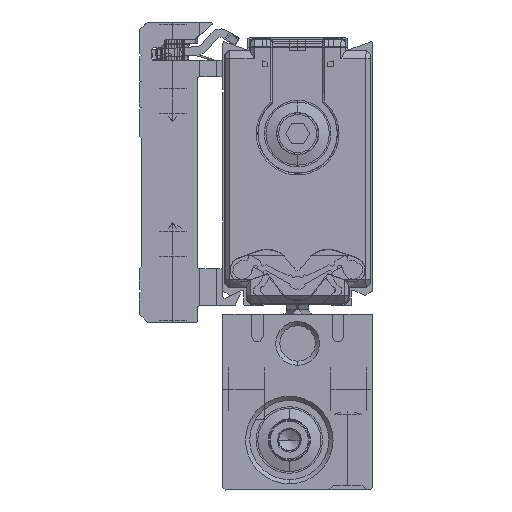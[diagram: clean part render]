
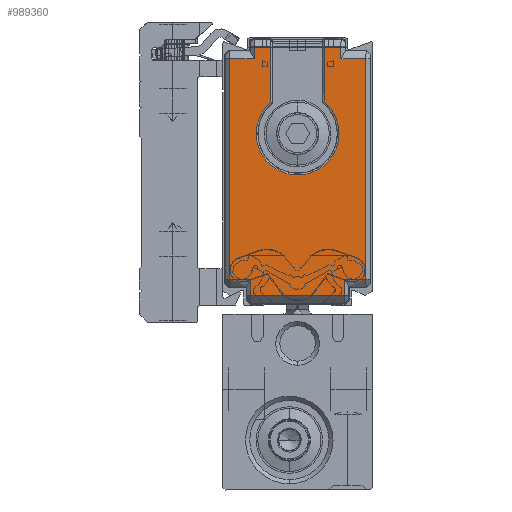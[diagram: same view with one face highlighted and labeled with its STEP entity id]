
A CAD part, left-side view. The second image highlights one B-rep face of the part: STEP entity #989360.
In plain terms, the highlighted planar face has unit normal (-1, 0, 0) as drawn and (0, 0, -1) by its records, which use the part's own axes.
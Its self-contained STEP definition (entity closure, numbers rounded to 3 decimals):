
#948520=CARTESIAN_POINT('',(24.688,30.224,-494.5));
#948530=VERTEX_POINT('',#948520);
#949580=CARTESIAN_POINT('',(31.365,35.75,-494.5));
#949590=DIRECTION('',(0.,-1.,0.));
#949600=VECTOR('',#949590,1.);
#949610=LINE('',#949580,#949600);
#949620=CARTESIAN_POINT('',(31.365,23.776,-494.5));
#949630=VERTEX_POINT('',#949620);
#949640=CARTESIAN_POINT('',(31.365,21.802,-494.5));
#949650=VERTEX_POINT('',#949640);
#949660=EDGE_CURVE('',#949630,#949650,#949610,.T.);
#956670=CARTESIAN_POINT('',(3.435,32.648,-494.5));
#956680=VERTEX_POINT('',#956670);
#956880=CARTESIAN_POINT('',(1.435,32.648,-494.5));
#956890=VERTEX_POINT('',#956880);
#956920=CARTESIAN_POINT('',(3.935,32.648,-494.5));
#956930=CARTESIAN_POINT('',(3.435,32.648,-494.5));
#956940=CARTESIAN_POINT('',(2.935,32.648,-494.5));
#956950=CARTESIAN_POINT('',(2.102,32.648,-494.5));
#956960=CARTESIAN_POINT('',(1.768,32.648,-494.5));
#956970=CARTESIAN_POINT('',(1.435,32.648,-494.5));
#956980=B_SPLINE_CURVE_WITH_KNOTS('',3,(#956920,#956930,#956940,#956950,
#956960,#956970),.UNSPECIFIED.,.F.,.F.,(4,2,4),(37.084,
38.584,39.584),.UNSPECIFIED.);
#956990=EDGE_CURVE('',#956680,#956890,#956980,.T.);
#958330=CARTESIAN_POINT('',(24.688,23.776,-494.5));
#958340=VERTEX_POINT('',#958330);
#960130=CARTESIAN_POINT('',(29.865,35.75,-494.5));
#960140=DIRECTION('',(0.,1.,0.));
#960150=VECTOR('',#960140,1.);
#960160=LINE('',#960130,#960150);
#960170=CARTESIAN_POINT('',(29.865,32.198,-494.5));
#960180=VERTEX_POINT('',#960170);
#960190=CARTESIAN_POINT('',(29.865,35.198,-494.5));
#960200=VERTEX_POINT('',#960190);
#960210=EDGE_CURVE('',#960180,#960200,#960160,.T.);
#962060=CARTESIAN_POINT('',(3.435,35.75,-494.5));
#962070=DIRECTION('',(0.,1.,0.));
#962080=VECTOR('',#962070,1.);
#962090=LINE('',#962060,#962080);
#962100=CARTESIAN_POINT('',(3.435,35.198,-494.5));
#962110=VERTEX_POINT('',#962100);
#962120=EDGE_CURVE('',#956680,#962110,#962090,.T.);
#962550=CARTESIAN_POINT('',(31.365,32.198,-494.5));
#962560=VERTEX_POINT('',#962550);
#962590=CARTESIAN_POINT('',(31.365,30.224,-494.5));
#962600=VERTEX_POINT('',#962590);
#962610=EDGE_CURVE('',#962560,#962600,#949610,.T.);
#963320=CARTESIAN_POINT('',(3.435,18.802,-494.5));
#963330=VERTEX_POINT('',#963320);
#963640=CARTESIAN_POINT('',(3.435,35.75,-494.5));
#963650=DIRECTION('',(0.,-1.,0.));
#963660=VECTOR('',#963650,1.);
#963670=LINE('',#963640,#963660);
#963680=CARTESIAN_POINT('',(3.435,21.352,-494.5));
#963690=VERTEX_POINT('',#963680);
#963700=EDGE_CURVE('',#963690,#963330,#963670,.T.);
#964550=CARTESIAN_POINT('',(1.435,21.352,-494.5));
#964560=VERTEX_POINT('',#964550);
#966030=CARTESIAN_POINT('',(3.935,21.352,-494.5));
#966040=CARTESIAN_POINT('',(3.435,21.352,-494.5));
#966050=CARTESIAN_POINT('',(2.935,21.352,-494.5));
#966060=CARTESIAN_POINT('',(2.102,21.352,-494.5));
#966070=CARTESIAN_POINT('',(1.768,21.352,-494.5));
#966080=CARTESIAN_POINT('',(1.435,21.352,-494.5));
#966090=B_SPLINE_CURVE_WITH_KNOTS('',3,(#966030,#966040,#966050,#966060,
#966070,#966080),.UNSPECIFIED.,.F.,.F.,(4,2,4),(37.084,
38.584,39.584),.UNSPECIFIED.);
#966100=EDGE_CURVE('',#963690,#964560,#966090,.T.);
#967280=CARTESIAN_POINT('',(1.435,35.75,-494.5));
#967290=DIRECTION('',(0.,1.,0.));
#967300=VECTOR('',#967290,1.);
#967310=LINE('',#967280,#967300);
#967320=EDGE_CURVE('',#964560,#956890,#967310,.T.);
#970890=CARTESIAN_POINT('',(0.15,30.224,-494.5));
#970900=DIRECTION('',(1.,0.,0.));
#970910=VECTOR('',#970900,1.);
#970920=LINE('',#970890,#970910);
#970930=EDGE_CURVE('',#948530,#962600,#970920,.T.);
#974670=CARTESIAN_POINT('',(29.865,21.802,-494.5));
#974680=VERTEX_POINT('',#974670);
#974730=CARTESIAN_POINT('',(29.365,21.802,-494.5));
#974740=CARTESIAN_POINT('',(29.782,21.802,-494.5));
#974750=CARTESIAN_POINT('',(30.198,21.802,-494.5));
#974760=CARTESIAN_POINT('',(30.865,21.802,-494.5));
#974770=CARTESIAN_POINT('',(31.115,21.802,-494.5));
#974780=CARTESIAN_POINT('',(31.365,21.802,-494.5));
#974790=B_SPLINE_CURVE_WITH_KNOTS('',3,(#974730,#974740,#974750,#974760,
#974770,#974780),.UNSPECIFIED.,.F.,.F.,(4,2,4),(37.587,
38.837,39.587),.UNSPECIFIED.);
#974800=EDGE_CURVE('',#974680,#949650,#974790,.T.);
#975130=CARTESIAN_POINT('',(29.365,32.198,-494.5));
#975140=CARTESIAN_POINT('',(29.782,32.198,-494.5));
#975150=CARTESIAN_POINT('',(30.198,32.198,-494.5));
#975160=CARTESIAN_POINT('',(30.865,32.198,-494.5));
#975170=CARTESIAN_POINT('',(31.115,32.198,-494.5));
#975180=CARTESIAN_POINT('',(31.365,32.198,-494.5));
#975190=B_SPLINE_CURVE_WITH_KNOTS('',3,(#975130,#975140,#975150,#975160,
#975170,#975180),.UNSPECIFIED.,.F.,.F.,(4,2,4),(37.587,
38.837,39.587),.UNSPECIFIED.);
#975200=EDGE_CURVE('',#960180,#962560,#975190,.T.);
#976340=CARTESIAN_POINT('',(29.865,18.802,-494.5));
#976350=VERTEX_POINT('',#976340);
#976380=CARTESIAN_POINT('',(3.435,18.802,-494.5));
#976390=CARTESIAN_POINT('',(7.84,18.802,-494.5));
#976400=CARTESIAN_POINT('',(12.245,18.802,-494.5));
#976410=CARTESIAN_POINT('',(21.055,18.802,-494.5));
#976420=CARTESIAN_POINT('',(25.46,18.802,-494.5));
#976430=CARTESIAN_POINT('',(29.865,18.802,-494.5));
#976440=B_SPLINE_CURVE_WITH_KNOTS('',3,(#976380,#976390,#976400,#976410,
#976420,#976430),.UNSPECIFIED.,.F.,.F.,(4,2,4),(24.334,
37.549,50.764),.UNSPECIFIED.);
#976450=EDGE_CURVE('',#963330,#976350,#976440,.T.);
#982850=CARTESIAN_POINT('',(29.865,35.75,-494.5));
#982860=DIRECTION('',(0.,-1.,0.));
#982870=VECTOR('',#982860,1.);
#982880=LINE('',#982850,#982870);
#982890=EDGE_CURVE('',#974680,#976350,#982880,.T.);
#984080=CARTESIAN_POINT('',(3.435,35.198,-494.5));
#984090=CARTESIAN_POINT('',(7.84,35.198,-494.5));
#984100=CARTESIAN_POINT('',(12.245,35.198,-494.5));
#984110=CARTESIAN_POINT('',(21.055,35.198,-494.5));
#984120=CARTESIAN_POINT('',(25.46,35.198,-494.5));
#984130=CARTESIAN_POINT('',(29.865,35.198,-494.5));
#984140=B_SPLINE_CURVE_WITH_KNOTS('',3,(#984080,#984090,#984100,#984110,
#984120,#984130),.UNSPECIFIED.,.F.,.F.,(4,2,4),(24.308,
37.523,50.738),.UNSPECIFIED.);
#984150=EDGE_CURVE('',#962110,#960200,#984140,.T.);
#988850=CARTESIAN_POINT('',(20.9,27.,-494.5));
#988860=DIRECTION('',(0.,0.,-1.));
#988870=DIRECTION('',(0.,1.,0.));
#988880=AXIS2_PLACEMENT_3D('',#988850,#988860,#988870);
#988890=CIRCLE('',#988880,4.974);
#988900=EDGE_CURVE('',#958340,#948530,#988890,.T.);
#989080=CARTESIAN_POINT('',(16.65,27.,-494.5));
#989090=DIRECTION('',(0.,0.,1.));
#989100=DIRECTION('',(0.,1.,0.));
#989110=AXIS2_PLACEMENT_3D('',#989080,#989090,#989100);
#989120=PLANE('',#989110);
#989130=ORIENTED_EDGE('',*,*,#988900,.F.);
#989140=ORIENTED_EDGE('',*,*,#970930,.F.);
#989150=ORIENTED_EDGE('',*,*,#962610,.T.);
#989160=ORIENTED_EDGE('',*,*,#975200,.T.);
#989170=ORIENTED_EDGE('',*,*,#960210,.F.);
#989180=ORIENTED_EDGE('',*,*,#984150,.T.);
#989190=ORIENTED_EDGE('',*,*,#962120,.T.);
#989200=ORIENTED_EDGE('',*,*,#956990,.F.);
#989210=ORIENTED_EDGE('',*,*,#967320,.T.);
#989220=ORIENTED_EDGE('',*,*,#966100,.T.);
#989230=ORIENTED_EDGE('',*,*,#963700,.F.);
#989240=ORIENTED_EDGE('',*,*,#976450,.F.);
#989250=ORIENTED_EDGE('',*,*,#982890,.T.);
#989260=ORIENTED_EDGE('',*,*,#974800,.F.);
#989270=ORIENTED_EDGE('',*,*,#949660,.T.);
#989280=CARTESIAN_POINT('',(0.15,23.776,-494.5));
#989290=DIRECTION('',(-1.,0.,0.));
#989300=VECTOR('',#989290,1.);
#989310=LINE('',#989280,#989300);
#989320=EDGE_CURVE('',#949630,#958340,#989310,.T.);
#989330=ORIENTED_EDGE('',*,*,#989320,.F.);
#989340=EDGE_LOOP('',(#989330,#989270,#989260,#989250,#989240,#989230,
#989220,#989210,#989200,#989190,#989180,#989170,#989160,#989150,#989140,
#989130));
#989350=FACE_OUTER_BOUND('',#989340,.T.);
#989360=ADVANCED_FACE('',(#989350),#989120,.F.);
